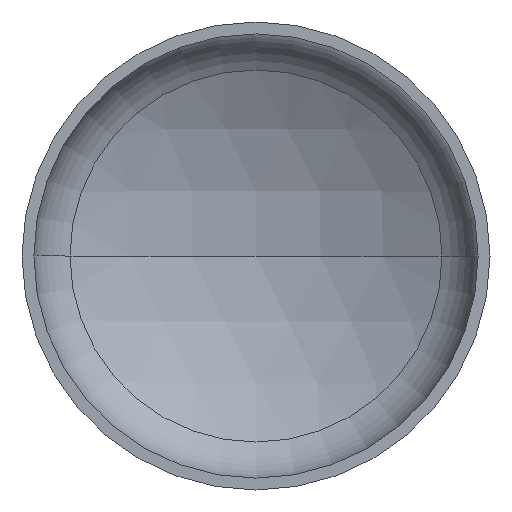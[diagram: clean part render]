
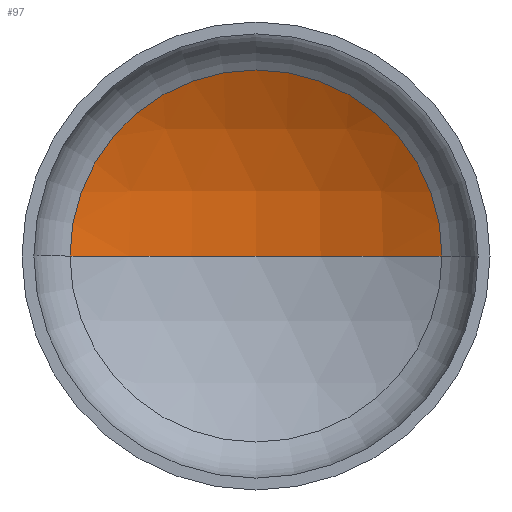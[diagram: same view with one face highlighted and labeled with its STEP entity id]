
A CAD part, front view. The second image highlights one B-rep face of the part: STEP entity #97.
In plain terms, the highlighted spherical face has radius 2400 mm.
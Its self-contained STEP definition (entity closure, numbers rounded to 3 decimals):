
#2 = CARTESIAN_POINT ( 'NONE',  ( 1192.577, 519.19, 0. ) ) ;
#6 = VERTEX_POINT ( 'NONE', #223 ) ;
#8 = DIRECTION ( 'NONE',  ( 1., 0., 0. ) ) ;
#11 = DIRECTION ( 'NONE',  ( 0., -1., 0. ) ) ;
#30 = AXIS2_PLACEMENT_3D ( 'NONE', #253, #249, #246 ) ;
#31 = AXIS2_PLACEMENT_3D ( 'NONE', #232, #398, #40 ) ;
#32 = AXIS2_PLACEMENT_3D ( 'NONE', #271, #171, #160 ) ;
#35 = AXIS2_PLACEMENT_3D ( 'NONE', #340, #11, #8 ) ;
#40 = DIRECTION ( 'NONE',  ( -1., 0., 0. ) ) ;
#73 = VERTEX_POINT ( 'NONE', #293 ) ;
#94 = SPHERICAL_SURFACE ( 'NONE', #32, 2400. ) ;
#97 = ADVANCED_FACE ( 'NONE', ( #320 ), #94, .F. ) ;
#98 = EDGE_CURVE ( 'NONE', #178, #73, #242, .T. ) ;
#112 = EDGE_CURVE ( 'NONE', #6, #178, #167, .T. ) ;
#133 = EDGE_CURVE ( 'NONE', #6, #73, #157, .T. ) ;
#157 = CIRCLE ( 'NONE', #30, 2400. ) ;
#158 = ORIENTED_EDGE ( 'NONE', *, *, #133, .F. ) ;
#160 = DIRECTION ( 'NONE',  ( -1., 0., 0. ) ) ;
#167 = CIRCLE ( 'NONE', #31, 2400. ) ;
#171 = DIRECTION ( 'NONE',  ( 0., 0., -1. ) ) ;
#178 = VERTEX_POINT ( 'NONE', #2 ) ;
#185 = ORIENTED_EDGE ( 'NONE', *, *, #112, .T. ) ;
#223 = CARTESIAN_POINT ( 'NONE',  ( 0., 836.461, 0. ) ) ;
#232 = CARTESIAN_POINT ( 'NONE',  ( 0., -1563.539, 0. ) ) ;
#242 = CIRCLE ( 'NONE', #35, 1192.577 ) ;
#246 = DIRECTION ( 'NONE',  ( 1., 0., 0. ) ) ;
#249 = DIRECTION ( 'NONE',  ( 0., 0., 1. ) ) ;
#253 = CARTESIAN_POINT ( 'NONE',  ( 0., -1563.539, 0. ) ) ;
#271 = CARTESIAN_POINT ( 'NONE',  ( 0., -1563.539, 0. ) ) ;
#293 = CARTESIAN_POINT ( 'NONE',  ( -1192.577, 519.19, 0. ) ) ;
#296 = EDGE_LOOP ( 'NONE', ( #158, #185, #303 ) ) ;
#303 = ORIENTED_EDGE ( 'NONE', *, *, #98, .T. ) ;
#320 = FACE_OUTER_BOUND ( 'NONE', #296, .T. ) ;
#340 = CARTESIAN_POINT ( 'NONE',  ( 0., 519.19, 0. ) ) ;
#398 = DIRECTION ( 'NONE',  ( 0., 0., -1. ) ) ;
